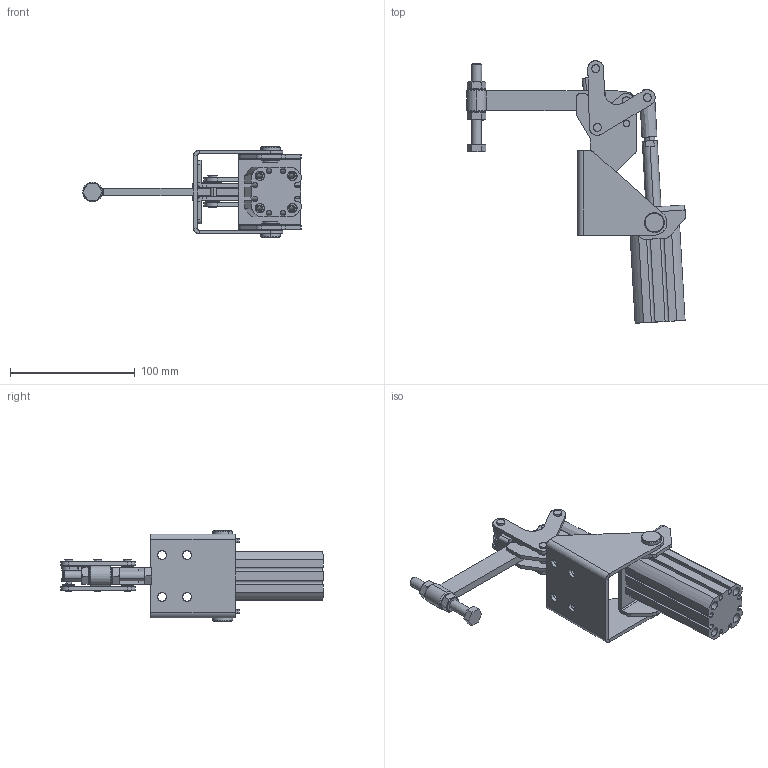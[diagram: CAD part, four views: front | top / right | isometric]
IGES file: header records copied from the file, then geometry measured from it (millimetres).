
Start section: SolidWorks IGES file using analytic representation for surfaces
Global section: file name: C:\Projetos\Grampos\KF-019 P\KF-019 DS P\KF-019 DS P.IGS; native system: SolidWorks 2013; preprocessor: SolidWorks 2013; author: Ricardo; date: 140828.163011; units: millimetre
Bounding box: 175.04 x 209.99 x 73 mm (x, y, z)
Surface area: 113896.1 mm2 (no closed solid volume)
Topology: 0 solids, 0 shells, 817 faces, 12946 edges, 12930 vertices
Faces by surface type: revolution 540, bspline 277
